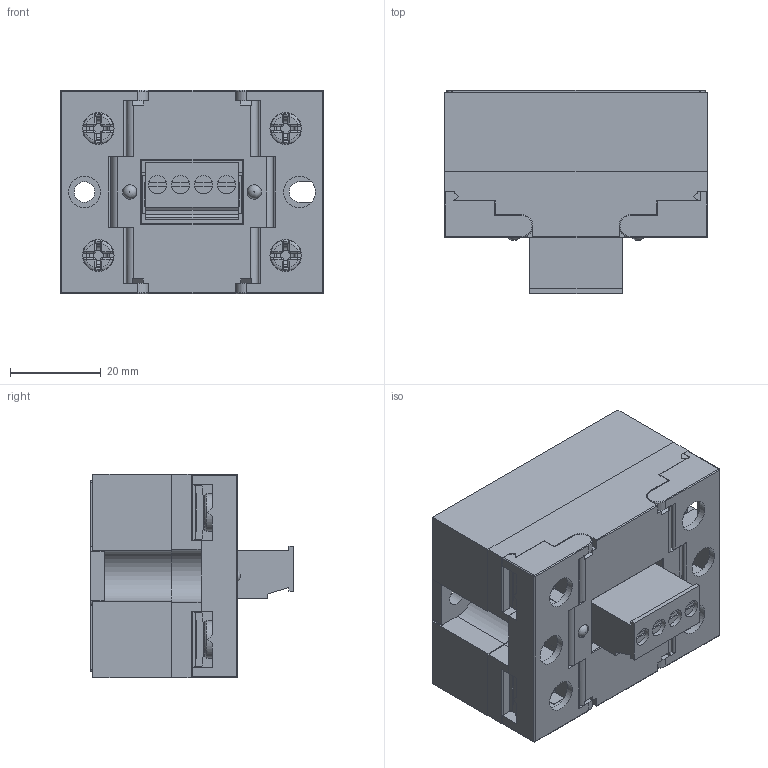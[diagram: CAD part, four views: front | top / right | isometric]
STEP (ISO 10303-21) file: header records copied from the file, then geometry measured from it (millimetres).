
FILE_DESCRIPTION(/* description */ ('Unknown'),/* implementation_level */ '2;1');
FILE_NAME(/* name */ '77x2',/* time_stamp */ '2024-01-19T10:51:39+01:00',/* author */ ('Unknown'),/* organization */ ('Unknown'),/* preprocessor_version */ 'ST-DEVELOPER v18.102',/* originating_system */ 'Solid Edge',/* authorisation */ 'Unknown');
FILE_SCHEMA (('AUTOMOTIVE_DESIGN {1 0 10303 214 3 1 1}'));
Length unit declared in the file: millimetre
Products named in the file (1): 77x2
Bounding box: 58 x 44.8 x 45 mm (x, y, z)
Surface area: 29265.7 mm2 (no closed solid volume)
Topology: 0 solids, 23 shells, 733 faces, 2242 edges, 1521 vertices
Faces by surface type: plane 404, cylinder 195, torus 90, bspline 24, cone 16, sphere 4
Full cylindrical faces by diameter (mm): 3.2 x2, 4 x8, 4.5 x1, 7 x6, 8.3 x4
Entity records: 27050 total; most frequent: CARTESIAN_POINT 6274, ORIENTED_EDGE 3928, DIRECTION 3814, EDGE_CURVE 2185, VERTEX_POINT 1503, LINE 1400, VECTOR 1400, AXIS2_PLACEMENT_3D 1207
